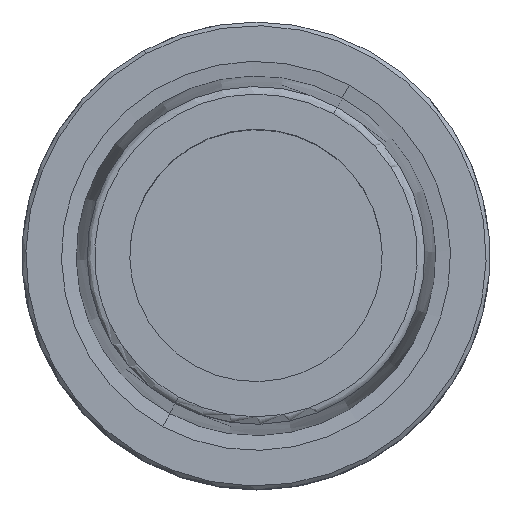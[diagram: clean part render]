
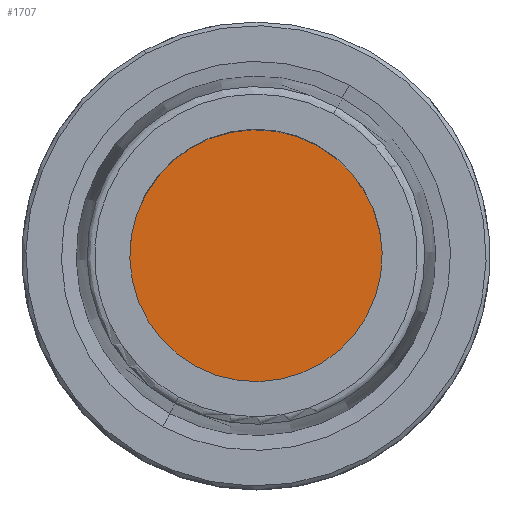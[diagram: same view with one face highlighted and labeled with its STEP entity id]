
A CAD part, top view. The second image highlights one B-rep face of the part: STEP entity #1707.
In plain terms, the highlighted planar face has unit normal (0, 0, 1).
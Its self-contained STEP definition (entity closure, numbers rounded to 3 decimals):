
#1687=AXIS2_PLACEMENT_3D('Plane Axis2P3D',#1684,#1685,#1686) ;
#1691=AXIS2_PLACEMENT_3D('Circle Axis2P3D',#1689,#1690,$) ;
#1700=AXIS2_PLACEMENT_3D('Circle Axis2P3D',#1698,#1699,$) ;
#1684=CARTESIAN_POINT('Axis2P3D Location',(0.,0.,-10.)) ;
#1689=CARTESIAN_POINT('Axis2P3D Location',(0.,0.,-10.)) ;
#1693=CARTESIAN_POINT('Vertex',(-8.15,-14.919,-10.)) ;
#1695=CARTESIAN_POINT('Vertex',(8.15,14.919,-10.)) ;
#1698=CARTESIAN_POINT('Axis2P3D Location',(0.,0.,-10.)) ;
#1685=DIRECTION('Axis2P3D Direction',(0.,0.,1.)) ;
#1686=DIRECTION('Axis2P3D XDirection',(1.,0.,0.)) ;
#1690=DIRECTION('Axis2P3D Direction',(0.,0.,1.)) ;
#1699=DIRECTION('Axis2P3D Direction',(0.,0.,1.)) ;
#1704=ORIENTED_EDGE('',*,*,#1697,.T.) ;
#1705=ORIENTED_EDGE('',*,*,#1702,.T.) ;
#1707=ADVANCED_FACE('NOCUT',(#1706),#1688,.T.) ;
#1692=CIRCLE('generated circle',#1691,17.) ;
#1701=CIRCLE('generated circle',#1700,17.) ;
#1697=EDGE_CURVE('',#1694,#1696,#1692,.T.) ;
#1702=EDGE_CURVE('',#1696,#1694,#1701,.T.) ;
#1703=EDGE_LOOP('',(#1704,#1705)) ;
#1706=FACE_OUTER_BOUND('',#1703,.T.) ;
#1688=PLANE('',#1687) ;
#1694=VERTEX_POINT('',#1693) ;
#1696=VERTEX_POINT('',#1695) ;
